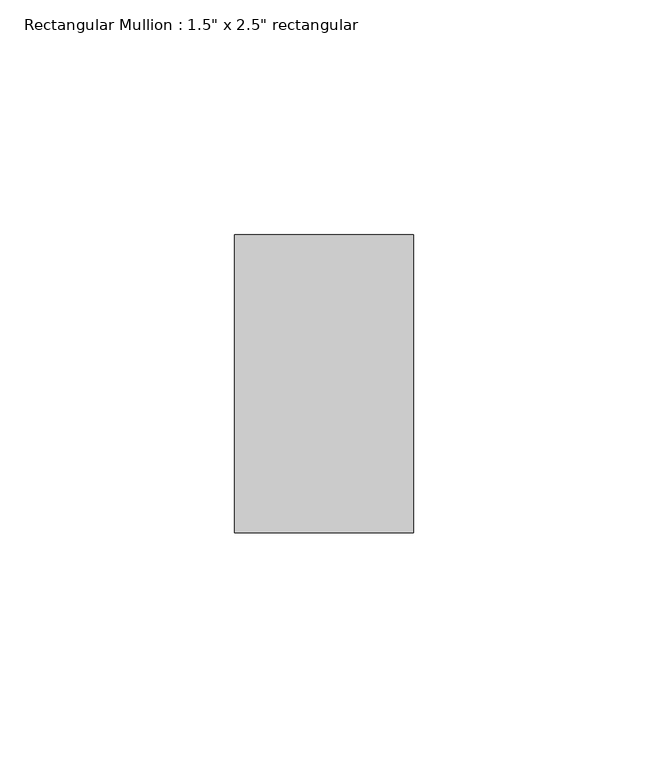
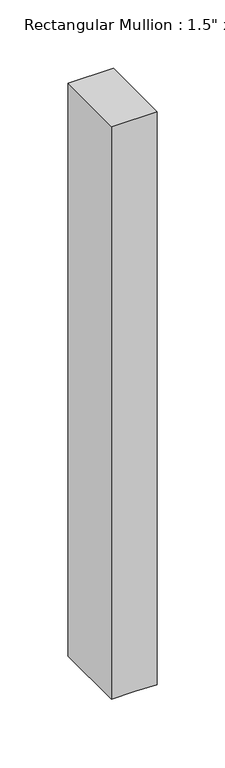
"""IFC4 building model written with IfcOpenShell, lengths in millimetres: member geometry."""

import ifcopenshell
import ifcopenshell.guid

model = None  # the IFC model being written
_history = None  # IfcOwnerHistory: only IFC2X3 demands one
_inside = {}  # id of a spatial element -> (the spatial element, [elements in it])
_under = {}  # id of a project, library or spatial element -> (it, [spatial elements below it])
_declared = {}  # id of a project -> (the project, [libraries it declares])
_typed = {}  # id of a type object -> (the type object, [elements of that type])
_made_of = {}  # id of a material, layer set ... -> (it, [elements and type objects made of it])


def new_model(schema):
    """Start an empty IFC model of exactly this schema.

    Asked for "IFC4X3", IfcOpenShell would pick the latest addendum, in which some entities
    have other attributes; the version numbers below select the first issue.
    IFC2X3 requires an IfcOwnerHistory on every rooted entity: one is made here for all.
    """
    global model, _history
    if schema == "IFC4X3":
        model = ifcopenshell.file(schema_version=(4, 3, 0, 0))
    else:
        model = ifcopenshell.file(schema=schema)
    _inside.clear()
    _under.clear()
    _declared.clear()
    _typed.clear()
    _made_of.clear()
    _history = None
    if model.schema == "IFC2X3":
        org = make("IfcOrganization", Name="unknown")
        user = make(
            "IfcPersonAndOrganization",
            ThePerson=make("IfcPerson", FamilyName="unknown"),
            TheOrganization=org,
        )
        app = make(
            "IfcApplication",
            ApplicationDeveloper=org,
            Version="unknown",
            ApplicationFullName="unknown",
            ApplicationIdentifier="unknown",
        )
        _history = make(
            "IfcOwnerHistory",
            OwningUser=user,
            OwningApplication=app,
            ChangeAction="ADDED",
            CreationDate=0,
        )
    return model


def make(cls, **values):
    """One entity of the class cls with the attributes given. An attribute that is None is left unset."""
    return model.create_entity(
        cls, **{name: value for name, value in values.items() if value is not None}
    )


def rooted(cls, **values):
    """An entity with a GlobalId (a new one), such as an element, a storey or a relation."""
    return make(cls, GlobalId=ifcopenshell.guid.new(), OwnerHistory=_history, **values)


def si_unit(unit_type, name, prefix=None):
    """IfcSIUnit, for example si_unit("LENGTHUNIT", "METRE", prefix="MILLI")."""
    return make("IfcSIUnit", UnitType=unit_type, Prefix=prefix, Name=name)


def assignment(units):
    """IfcUnitAssignment: the units of a project."""
    return None if units is None else make("IfcUnitAssignment", Units=units)


def point(xyz):
    """IfcCartesianPoint."""
    return None if xyz is None else make("IfcCartesianPoint", Coordinates=xyz)


def direction(xyz):
    """IfcDirection."""
    return None if xyz is None else make("IfcDirection", DirectionRatios=xyz)


def frame(location, z_axis=None, x_axis=None):
    """IfcAxis2Placement3D, a coordinate frame: its origin and axes. An axis left out is left unset."""
    return make(
        "IfcAxis2Placement3D",
        Location=point(location),
        Axis=direction(z_axis),
        RefDirection=direction(x_axis),
    )


def origin():
    """The frame at (0, 0, 0) with its axes left unset."""
    return frame((0.0, 0.0, 0.0))


def place(relative_to, where):
    """IfcLocalPlacement: puts the frame where relative to a parent placement (None: the world)."""
    return make(
        "IfcLocalPlacement", PlacementRelTo=relative_to, RelativePlacement=where
    )


def context(
    kind, dimensions, precision=None, world=None, true_north=None, identifier=None
):
    """IfcGeometricRepresentationContext, for example the 3D "Model" context."""
    return make(
        "IfcGeometricRepresentationContext",
        ContextIdentifier=identifier,
        ContextType=kind,
        CoordinateSpaceDimension=dimensions,
        Precision=precision,
        WorldCoordinateSystem=world,
        TrueNorth=true_north,
    )


def project(units=None, contexts=None):
    """IfcProject with its units and contexts."""
    return rooted(
        "IfcProject",
        Name="project",
        RepresentationContexts=contexts,
        UnitsInContext=assignment(units),
    )


def spatial(cls, under=None, at=None, **own):
    """A site, building, storey or space (cls), placed at a placement, below another one or the project."""
    s = rooted(cls, ObjectPlacement=at, **own)
    if under is not None:
        _under.setdefault(under.id(), (under, []))[1].append(s)
    return s


def polyline(points):
    """IfcPolyline through the points."""
    return make("IfcPolyline", Points=[point(p) for p in points])


def outline(outer, holes=None, kind="AREA"):
    """IfcArbitraryClosedProfileDef: a profile drawn as a closed curve; with holes, ...WithVoids."""
    if holes is None:
        return make("IfcArbitraryClosedProfileDef", ProfileType=kind, OuterCurve=outer)
    return make(
        "IfcArbitraryProfileDefWithVoids",
        ProfileType=kind,
        OuterCurve=outer,
        InnerCurves=holes,
    )


def extrude(swept, where, along, depth):
    """IfcExtrudedAreaSolid: the profile swept, set in the frame where, extruded along a direction by depth."""
    return make(
        "IfcExtrudedAreaSolid",
        SweptArea=swept,
        Position=where,
        ExtrudedDirection=direction(along),
        Depth=depth,
    )


def shape(context_of_items, identifier, shape_type, items):
    """IfcShapeRepresentation: the items that make up one representation, for example the "Body"."""
    return make(
        "IfcShapeRepresentation",
        ContextOfItems=context_of_items,
        RepresentationIdentifier=identifier,
        RepresentationType=shape_type,
        Items=items,
    )


def source(mapping_origin, context_of_items, identifier, shape_type, items):
    """IfcRepresentationMap: a shape defined once, which mapped items show again and again."""
    return make(
        "IfcRepresentationMap",
        MappingOrigin=mapping_origin,
        MappedRepresentation=shape(context_of_items, identifier, shape_type, items),
    )


def transform(
    local_origin,
    x_axis=None,
    y_axis=None,
    z_axis=None,
    scale=None,
    scale2=None,
    scale3=None,
    uniform=True,
):
    """IfcCartesianTransformationOperator3D, or its non-uniform kind. x_axis, y_axis, z_axis: its Axis1, 2, 3."""
    if uniform:
        return make(
            "IfcCartesianTransformationOperator3D",
            Axis1=direction(x_axis),
            Axis2=direction(y_axis),
            LocalOrigin=point(local_origin),
            Scale=scale,
            Axis3=direction(z_axis),
        )
    return make(
        "IfcCartesianTransformationOperator3DnonUniform",
        Axis1=direction(x_axis),
        Axis2=direction(y_axis),
        LocalOrigin=point(local_origin),
        Scale=scale,
        Axis3=direction(z_axis),
        Scale2=scale2,
        Scale3=scale3,
    )


def mapped(mapping_source, mapping_target):
    """IfcMappedItem: shows the shape of a source again, moved by a transform."""
    return make(
        "IfcMappedItem", MappingSource=mapping_source, MappingTarget=mapping_target
    )


def made_of(thing, what):
    """Note that an element or type object is made of a material, layer set ...; save() writes the relation."""
    if what is not None:
        _made_of.setdefault(what.id(), (what, []))[1].append(thing)
    return thing


def element(
    cls,
    number,
    at=None,
    inside=None,
    cuts=None,
    type_object=None,
    material=None,
    context=None,
    identifier="Body",
    shape_type=None,
    held_by="IfcProductDefinitionShape",
    body=None,
    shapes=None,
    **own,
):
    """One element of the class cls, such as IfcWall. Its Tag is "e" and its number.

    at: its placement. inside: the storey or other place that contains it. cuts: it is an
    opening in that element (IfcRelVoidsElement). A single representation is given by context,
    identifier, shape_type and body (its items); several are given by shapes. held_by: the class
    of the entity that holds the representations. save() writes the other relations.
    """
    e = rooted(cls, Tag="e%d" % number, ObjectPlacement=at, **own)
    if body is not None:
        shapes = [shape(context, identifier, shape_type, body)]
    if shapes is not None:
        e.Representation = make(held_by, Representations=shapes)
    if inside is not None:
        _inside.setdefault(inside.id(), (inside, []))[1].append(e)
    if cuts is not None:
        rooted(
            "IfcRelVoidsElement", RelatingBuildingElement=cuts, RelatedOpeningElement=e
        )
    if type_object is not None:
        _typed.setdefault(type_object.id(), (type_object, []))[1].append(e)
    return made_of(e, material)


def aggregate(whole, parts):
    """IfcRelAggregates: a whole, such as a stair, and the parts it consists of."""
    return rooted("IfcRelAggregates", RelatingObject=whole, RelatedObjects=parts)


def save(model, path):
    """Write the relations noted so far, then the file.

    IfcRelAggregates (storeys below a building ...), IfcRelContainedInSpatialStructure (elements
    in a storey), IfcRelDefinesByType, IfcRelAssociatesMaterial and IfcRelDeclares: one each for
    every whole, place, type object, material and project.
    """
    for whole, parts in _under.values():
        aggregate(whole, parts)
    for where, things in _inside.values():
        rooted(
            "IfcRelContainedInSpatialStructure",
            RelatedElements=things,
            RelatingStructure=where,
        )
    for kind, things in _typed.values():
        rooted("IfcRelDefinesByType", RelatedObjects=things, RelatingType=kind)
    for what, things in _made_of.values():
        rooted("IfcRelAssociatesMaterial", RelatedObjects=things, RelatingMaterial=what)
    for by, libraries in _declared.values():
        rooted("IfcRelDeclares", RelatingContext=by, RelatedDefinitions=libraries)
    model.write(path)


def member_9701ffe2(model_context):
    return source(origin(), model_context, "Body", "SweptSolid", [
        extrude(outline(polyline([(0.0, 19.05), (0.0, -19.05), (-510.9405629, -19.05), (-510.6755921, 0.518638), (-511.2293098, 19.05), (0.0, 19.05)])), frame((0.0, -31.75, 0.0), z_axis=(0.0, 1.0, 0.0), x_axis=(0.0, 0.0, 1.0)), (0.0, 0.0, 1.0), 63.5),
    ])


if __name__ == "__main__":
    model = new_model("IFC4")
    model_context = context("Model", 3, world=origin())
    ifc_project = project(units=[si_unit("LENGTHUNIT", "METRE", prefix="MILLI")], contexts=[model_context])
    site = spatial("IfcSite", under=ifc_project)
    building = spatial("IfcBuilding", under=site)
    placement = place(None, origin())
    member_shape = member_9701ffe2(model_context)
    element("IfcMember", 1, ObjectType="Rectangular Mullion : 1.5\" x 2.5\" rectangular", at=placement, inside=building, context=model_context, shape_type="MappedRepresentation", body=[
        mapped(member_shape, transform((0.0, 0.0, 0.0), x_axis=(1.0, 0.0, 0.0), y_axis=(0.0, 1.0, 0.0), z_axis=(0.0, 0.0, 1.0))),
    ])
    save(model, "model.ifc")
